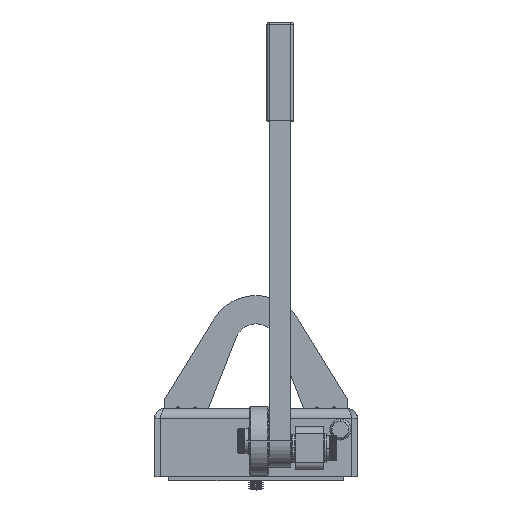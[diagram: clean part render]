
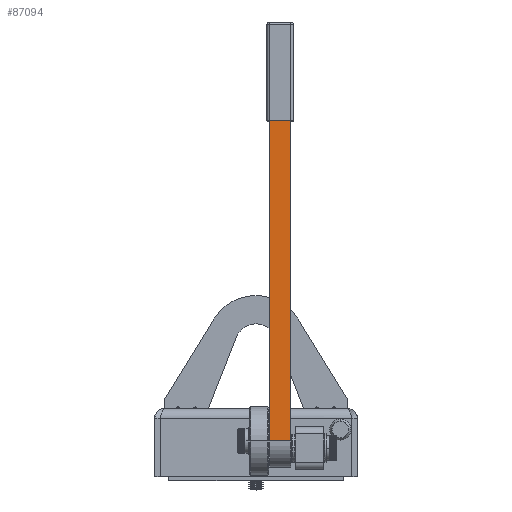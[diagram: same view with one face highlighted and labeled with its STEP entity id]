
A CAD part, top view. The second image highlights one B-rep face of the part: STEP entity #87094.
In plain terms, the highlighted planar face has unit normal (0, 0, 1).
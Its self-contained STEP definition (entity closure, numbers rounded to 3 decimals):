
#68 = DIRECTION ( 'NONE',  ( -1., 0., 0. ) ) ;
#1356 = PLANE ( 'NONE',  #88560 ) ;
#1793 = LINE ( 'NONE', #69519, #88258 ) ;
#7175 = VERTEX_POINT ( 'NONE', #19308 ) ;
#8443 = ORIENTED_EDGE ( 'NONE', *, *, #26948, .T. ) ;
#8795 = LINE ( 'NONE', #58819, #101118 ) ;
#19308 = CARTESIAN_POINT ( 'NONE',  ( 1.235, 13.5, 7.25 ) ) ;
#20230 = LINE ( 'NONE', #41131, #111001 ) ;
#22725 = EDGE_CURVE ( 'NONE', #61276, #63012, #1793, .T. ) ;
#26948 = EDGE_CURVE ( 'NONE', #7175, #61276, #54391, .T. ) ;
#33824 = ORIENTED_EDGE ( 'NONE', *, *, #22725, .T. ) ;
#37448 = DIRECTION ( 'NONE',  ( 0., 0., -1. ) ) ;
#41131 = CARTESIAN_POINT ( 'NONE',  ( 1.235, -0.969, 7.25 ) ) ;
#41947 = FACE_OUTER_BOUND ( 'NONE', #91101, .T. ) ;
#46861 = CARTESIAN_POINT ( 'NONE',  ( 1.235, -0.969, 7.25 ) ) ;
#47247 = DIRECTION ( 'NONE',  ( 0., 1., 0. ) ) ;
#47278 = ORIENTED_EDGE ( 'NONE', *, *, #103389, .F. ) ;
#54391 = LINE ( 'NONE', #64371, #63172 ) ;
#55754 = EDGE_CURVE ( 'NONE', #106293, #63012, #20230, .T. ) ;
#58819 = CARTESIAN_POINT ( 'NONE',  ( 1.235, -0.969, 7.25 ) ) ;
#61276 = VERTEX_POINT ( 'NONE', #86352 ) ;
#63012 = VERTEX_POINT ( 'NONE', #105965 ) ;
#63172 = VECTOR ( 'NONE', #68, 39.37 ) ;
#64371 = CARTESIAN_POINT ( 'NONE',  ( 1.235, 13.5, 7.25 ) ) ;
#69347 = DIRECTION ( 'NONE',  ( -1., 0., 0. ) ) ;
#69519 = CARTESIAN_POINT ( 'NONE',  ( 0.485, -0.969, 7.25 ) ) ;
#70020 = ORIENTED_EDGE ( 'NONE', *, *, #55754, .F. ) ;
#86352 = CARTESIAN_POINT ( 'NONE',  ( 0.485, 13.5, 7.25 ) ) ;
#87094 = ADVANCED_FACE ( 'NONE', ( #41947 ), #1356, .F. ) ;
#87111 = DIRECTION ( 'NONE',  ( 0., -1., 0. ) ) ;
#88258 = VECTOR ( 'NONE', #116209, 39.37 ) ;
#88560 = AXIS2_PLACEMENT_3D ( 'NONE', #46861, #37448, #47247 ) ;
#91101 = EDGE_LOOP ( 'NONE', ( #33824, #70020, #47278, #8443 ) ) ;
#101118 = VECTOR ( 'NONE', #87111, 39.37 ) ;
#101136 = CARTESIAN_POINT ( 'NONE',  ( 1.235, -0.969, 7.25 ) ) ;
#103389 = EDGE_CURVE ( 'NONE', #7175, #106293, #8795, .T. ) ;
#105965 = CARTESIAN_POINT ( 'NONE',  ( 0.485, -0.969, 7.25 ) ) ;
#106293 = VERTEX_POINT ( 'NONE', #101136 ) ;
#111001 = VECTOR ( 'NONE', #69347, 39.37 ) ;
#116209 = DIRECTION ( 'NONE',  ( 0., -1., 0. ) ) ;
